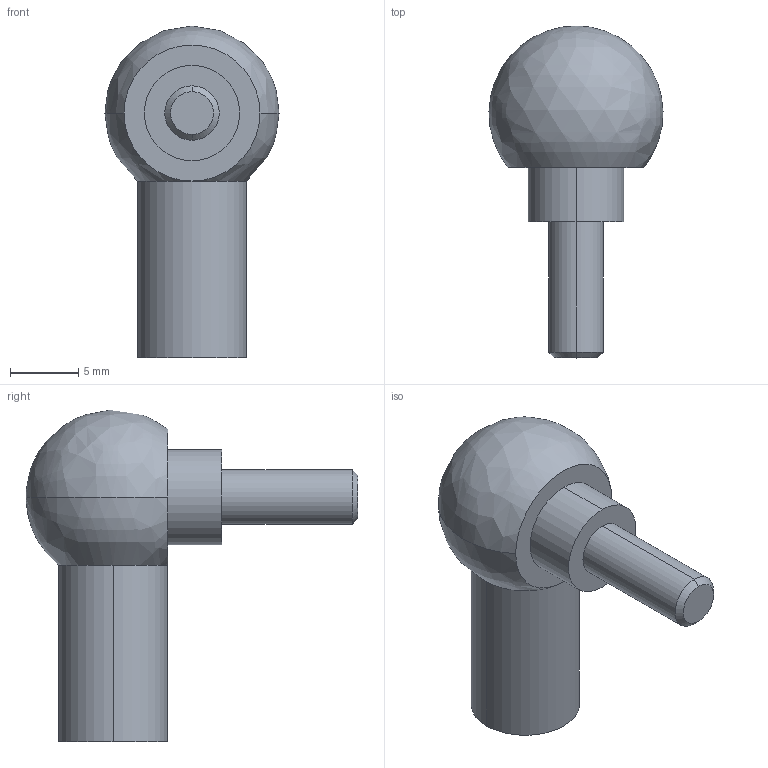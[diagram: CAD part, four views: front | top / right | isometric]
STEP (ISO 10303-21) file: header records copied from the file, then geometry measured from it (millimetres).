
FILE_DESCRIPTION (( 'STEP AP214' ), '1' );
FILE_NAME ('13.CS8M4.STEP', '2017-10-27T13:11:04', ( '' ), ( '' ), 'SwSTEP 2.0', 'SolidWorks 2016', '' );
FILE_SCHEMA (( 'AUTOMOTIVE_DESIGN' ));
Length unit declared in the file: millimetre
Products named in the file (1): 13.CS8M4
Bounding box: 12.8 x 24.4 x 24.4 mm (x, y, z)
Volume: 1824.6 mm3; surface area: 1113.4 mm2
Topology: 1 solids, 1 shells, 21 faces, 44 edges, 26 vertices
Faces by surface type: cylinder 8, cone 6, plane 5, bspline 2
Entity records: 612 total; most frequent: CARTESIAN_POINT 120, DIRECTION 110, ORIENTED_EDGE 84, AXIS2_PLACEMENT_3D 48, EDGE_CURVE 42, CIRCLE 28, VERTEX_POINT 26, EDGE_LOOP 24
